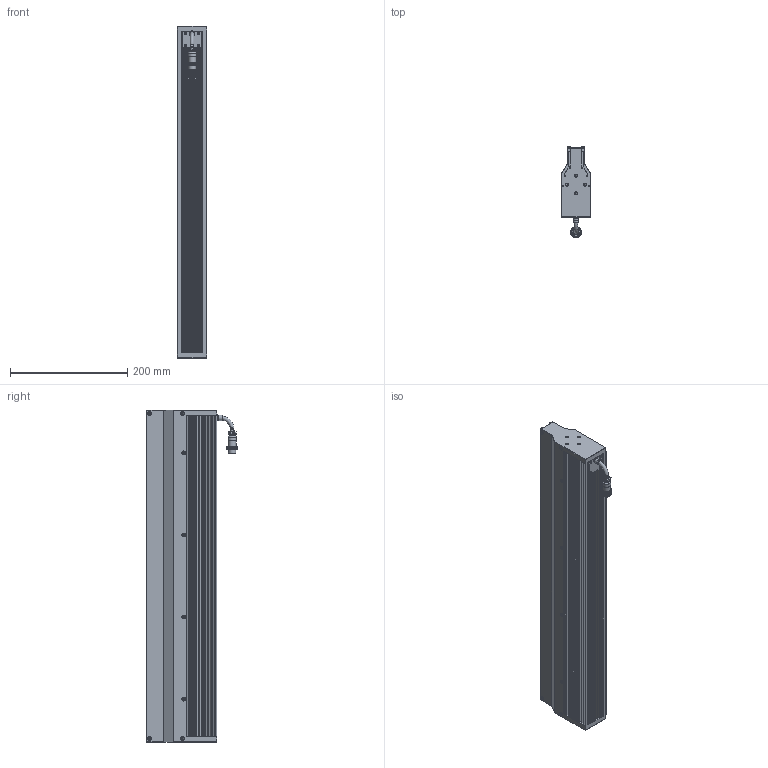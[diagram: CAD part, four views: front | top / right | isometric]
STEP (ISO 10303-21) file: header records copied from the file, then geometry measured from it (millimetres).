
FILE_DESCRIPTION (( 'STEP AP203' ), '1' );
FILE_NAME ('OPT-LSNL566-W-V1.1U尨砩芞.STEP', '2025-02-18T03:04:33', ( '' ), ( '' ), 'SwSTEP 2.0', 'SolidWorks 2016', '' );
FILE_SCHEMA (( 'CONFIG_CONTROL_DESIGN' ));
Products named in the file (1): OPT-LSNL566-W-V1.1U尨砩芞
Bounding box: 50.01 x 155.15 x 566 mm (x, y, z)
Volume: 2059458.9 mm3; surface area: 703622.8 mm2
Topology: 6 solids, 11 shells, 3619 faces, 8243 edges, 4656 vertices
Faces by surface type: bspline 2059, cylinder 761, plane 752, cone 39, torus 8
Full cylindrical faces by diameter (mm): 0.95 x6, 1.1 x2, 1.4 x2, 2 x4, 2.5 x10, 3 x12, 3.4 x16, 3.5 x4, 5 x8, 6.4 x3, 7.5 x1, 8.6 x1, 9.3 x1, 9.8 x1, 10 x1, 13.2 x1, 14 x1, 16.1 x1
Entity records: 126600 total; most frequent: CARTESIAN_POINT 64902, ORIENTED_EDGE 16118, EDGE_CURVE 8059, DIRECTION 6015, B_SPLINE_CURVE_WITH_KNOTS 5589, VERTEX_POINT 4598, EDGE_LOOP 3815, FACE_OUTER_BOUND 3702
